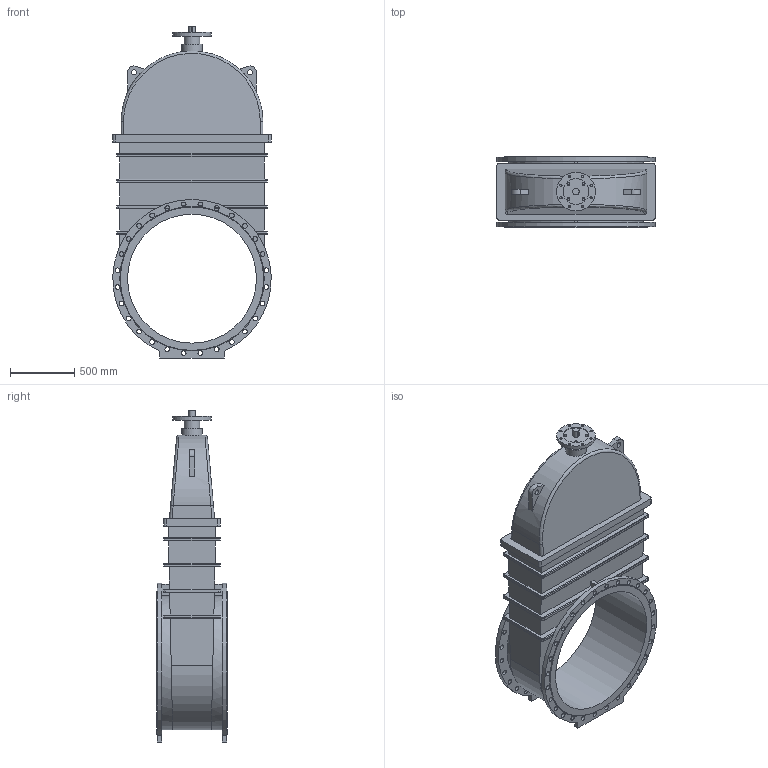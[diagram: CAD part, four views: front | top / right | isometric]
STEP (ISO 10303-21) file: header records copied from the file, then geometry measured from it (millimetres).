
FILE_DESCRIPTION(('STEP AP203'), '1');
FILE_NAME('Çàäâèæêà 47GVA.Z DN1000 PN10 áåç èñïîëíèò. ìåõ.', '', ('UNSPECIFIED'), ('UNSPECIFIED'), 'ASCON STEP Converter 1.6', 'ASCON Math Kernel', '');
FILE_SCHEMA(('CONFIG_CONTROL_DESIGN'));
Length unit declared in the file: millimetre
Bounding box: 1230 x 550 x 2575 mm (x, y, z)
Volume: 565124729 mm3; surface area: 10237365.7 mm2
Topology: 1 solids, 1 shells, 299 faces, 765 edges, 488 vertices
Faces by surface type: cylinder 154, plane 111, bspline 32, cone 2
Full cylindrical faces by diameter (mm): 18 x8, 20 x4, 37 x56, 40 x2, 50 x1, 120 x1, 160 x1, 200 x1, 300 x1, 1000 x1
Entity records: 14652 total; most frequent: CARTESIAN_POINT 5142, DIRECTION 1390, ORIENTED_EDGE 1374, EDGE_CURVE 687, EDGE_LOOP 539, AXIS2_PLACEMENT_3D 531, VERTEX_POINT 488, FACE_BOUND 384
